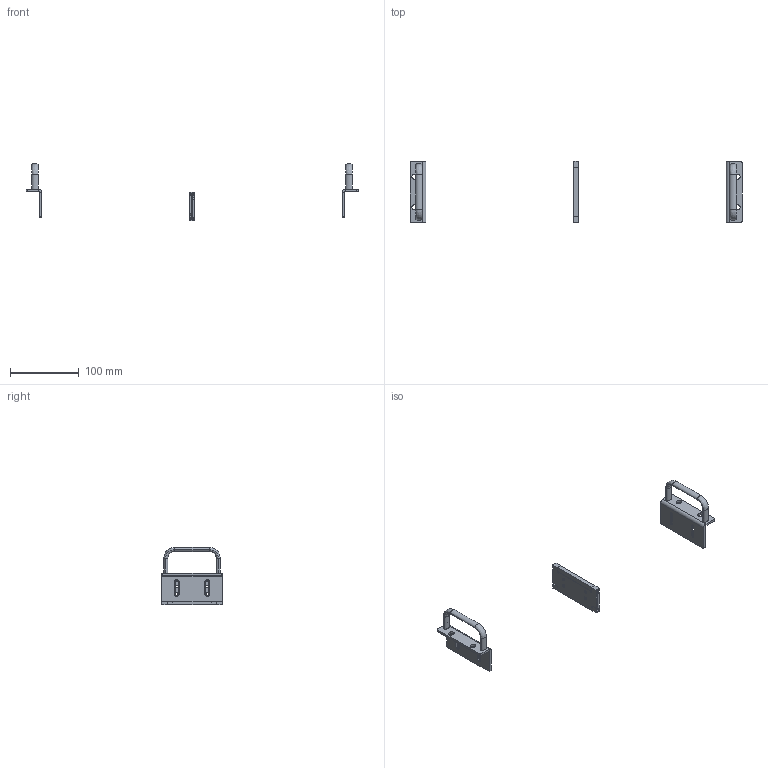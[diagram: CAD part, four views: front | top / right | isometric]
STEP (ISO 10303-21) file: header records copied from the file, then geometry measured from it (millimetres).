
FILE_DESCRIPTION (( 'STEP AP214' ), '1' );
FILE_NAME ('RM-2.STEP', '2023-04-25T14:12:35', ( '' ), ( '' ), 'SwSTEP 2.0', 'SolidWorks 2020', '' );
FILE_SCHEMA (( 'AUTOMOTIVE_DESIGN' ));
Length unit declared in the file: inch
Products named in the file (1): RM-2
Bounding box: 482.6 x 88.65 x 82.9 mm (x, y, z)
Volume: 65584.7 mm3; surface area: 45940.5 mm2
Topology: 6 solids, 6 shells, 264 faces, 664 edges, 404 vertices
Faces by surface type: cylinder 100, plane 92, cone 52, bspline 20
Entity records: 11495 total; most frequent: CARTESIAN_POINT 1593, DIRECTION 1362, ORIENTED_EDGE 1296, EDGE_CURVE 648, AXIS2_PLACEMENT_3D 493, VERTEX_POINT 404, LINE 376, VECTOR 376
